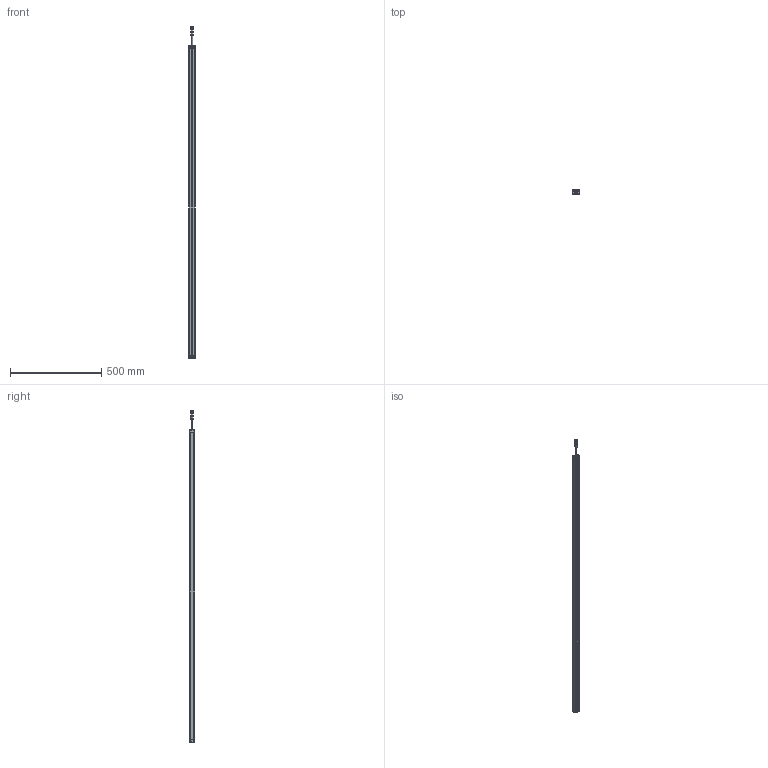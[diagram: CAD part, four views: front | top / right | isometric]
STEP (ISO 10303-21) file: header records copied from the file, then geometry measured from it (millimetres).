
FILE_DESCRIPTION((''),'2;1');
FILE_NAME('SMT1-CGQ_ASM','2025-08-08T08:51:40',('Administrator'),(''),'CREO PARAMETRIC BY PTC INC, 2016510','CREO PARAMETRIC BY PTC INC, 2016510','');
FILE_SCHEMA(('CONFIG_CONTROL_DESIGN'));
Length unit declared in the file: millimetre
Products named in the file (7): SMT1-XINGCAI-V1; SMT1-SDG-V1; SMT1-XDG-V1; M12-CHATOU; ST3X18; CT4-LVGUANGBAN; SMT1-CGQ_ASM
Assembly tree (13 placements, depth 2):
  SMT1-CGQ_ASM
    SMT1-XINGCAI-V1
    SMT1-SDG-V1
    SMT1-XDG-V1
    M12-CHATOU
    ST3X18  x8
    CT4-LVGUANGBAN
Bounding box: 33 x 28.02 x 1819.5 mm (x, y, z)
Volume: 1320627.3 mm3; surface area: 421573 mm2
Topology: 13 solids, 13 shells, 712 faces, 1868 edges, 1200 vertices
Faces by surface type: plane 382, cylinder 184, extrusion 86, sphere 32, cone 20, bspline 8
Entity records: 18128 total; most frequent: CARTESIAN_POINT 4347, ORIENTED_EDGE 2916, DIRECTION 2580, EDGE_CURVE 1458, VECTOR 1036, VERTEX_POINT 955, LINE 950, AXIS2_PLACEMENT_3D 772
